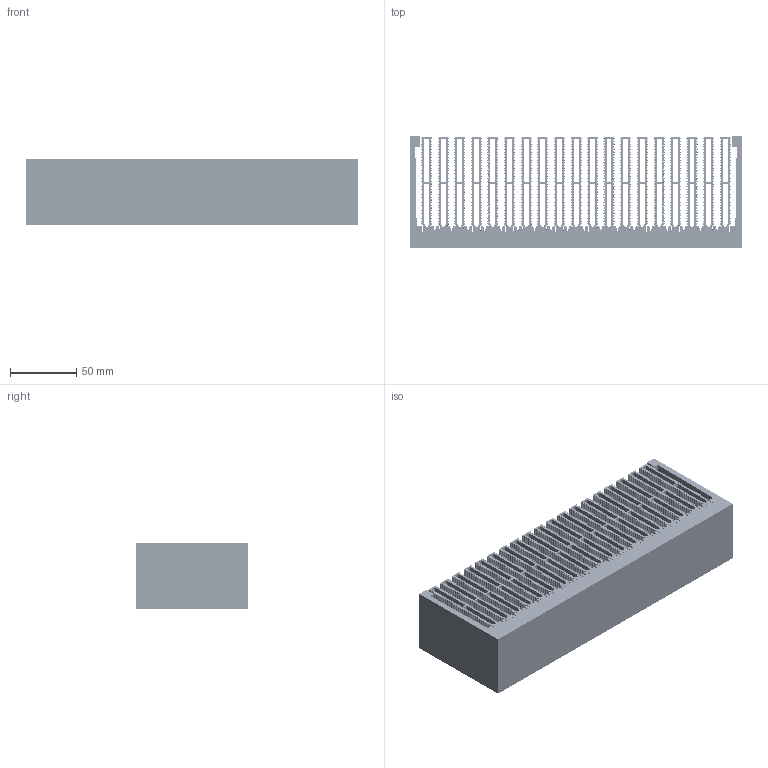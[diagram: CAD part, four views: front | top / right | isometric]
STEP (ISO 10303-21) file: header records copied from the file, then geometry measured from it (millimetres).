
FILE_DESCRIPTION (( 'STEP AP214' ), '1' );
FILE_NAME ('PR252_komplett.STEP', '2013-07-08T14:17:11', ( '' ), ( '' ), 'SwSTEP 2.0', 'SolidWorks 2013', '' );
FILE_SCHEMA (( 'AUTOMOTIVE_DESIGN' ));
Length unit declared in the file: millimetre
Products named in the file (4): PR252_komplett; PR252_Rippe; Rippe_PR252; PR252_Grundkörper
Assembly tree (21 placements, depth 3):
  PR252_komplett
    PR252_Grundkörper
    PR252_Rippe  x19
      Rippe_PR252
Bounding box: 250 x 84 x 50 mm (x, y, z)
Volume: 466915 mm3; surface area: 427721 mm2
Topology: 20 solids, 20 shells, 5027 faces, 14961 edges, 9974 vertices
Faces by surface type: cylinder 4180, plane 847
Entity records: 13873 total; most frequent: DIRECTION 2483, CARTESIAN_POINT 2411, ORIENTED_EDGE 2382, EDGE_CURVE 1191, AXIS2_PLACEMENT_3D 866, VERTEX_POINT 794, VECTOR 751, LINE 751
